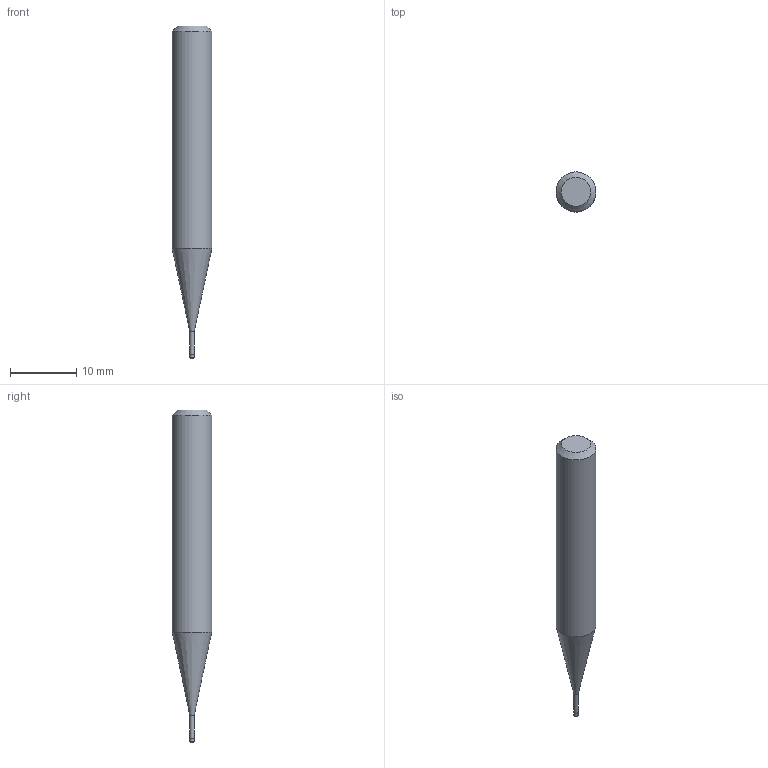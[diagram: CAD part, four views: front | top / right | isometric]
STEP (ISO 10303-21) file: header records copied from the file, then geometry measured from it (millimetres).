
FILE_DESCRIPTION((''),'2;1');
FILE_NAME('C:\Users\nsx150\AppData\Local\Temp\Mastercam 2021\17T8Q8S9EB\TEMP.step','2021-04-21T14:32:01',(''),(''),'STEP Write','Mastercam 2021 ... CNC Software, Inc.','');
FILE_SCHEMA(('AUTOMOTIVE_DESIGN'));
Length unit declared in the file: millimetre
Products named in the file (1): None
Bounding box: 6 x 6 x 50 mm (x, y, z)
Volume: 1074.2 mm3; surface area: 792.7 mm2
Topology: 2 solids, 2 shells, 10 faces, 14 edges, 8 vertices
Faces by surface type: plane 4, cylinder 3, cone 2, torus 1
Full cylindrical faces by diameter (mm): 0.66 x1, 0.7 x1, 6 x1
Entity records: 232 total; most frequent: DIRECTION 40, CARTESIAN_POINT 28, AXIS2_PLACEMENT_3D 20, ORIENTED_EDGE 16, EDGE_LOOP 16, STYLED_ITEM 13, ADVANCED_FACE 10, FACE_BOUND 10
